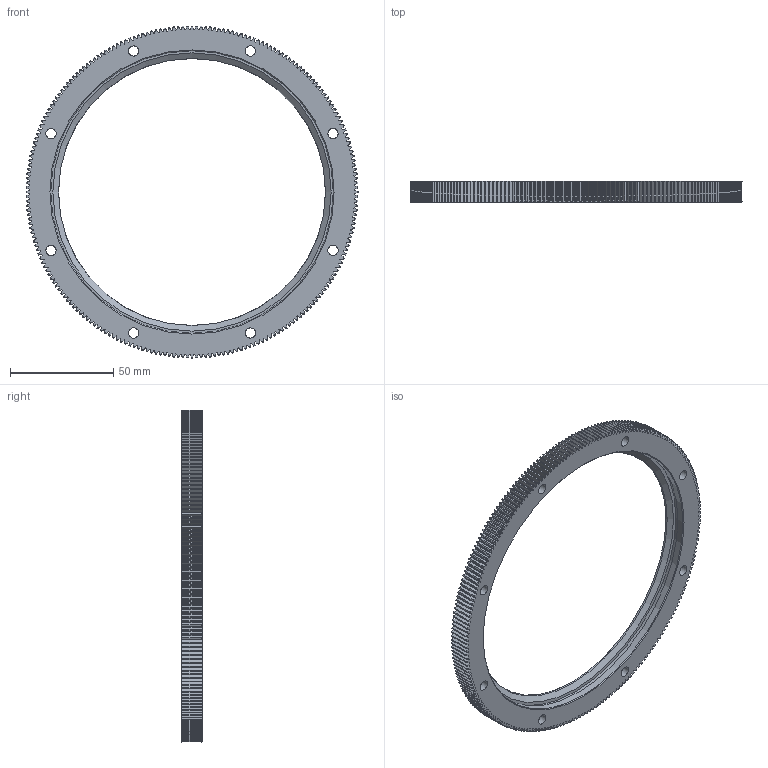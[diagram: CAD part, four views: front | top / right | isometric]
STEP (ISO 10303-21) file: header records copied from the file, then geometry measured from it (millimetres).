
FILE_DESCRIPTION(('STEP AP203'),'1');
FILE_NAME('RIV 161 R360 P.stp','2022-07-19T05:00:46',(' '),(' '),'Spatial InterOp 3D',' ',' ');
FILE_SCHEMA(('CONFIG_CONTROL_DESIGN'));
Length unit declared in the file: millimetre
Products named in the file (1): RIV 161 R360 P
Bounding box: 161 x 10 x 161 mm (x, y, z)
Volume: 53957.7 mm3; surface area: 28418 mm2
Topology: 1 solids, 1 shells, 1402 faces, 4174 edges, 2784 vertices
Faces by surface type: plane 924, cylinder 246, cone 231, torus 1
Full cylindrical faces by diameter (mm): 5 x8, 8 x8, 137 x1, 138.2 x1
Entity records: 47136 total; most frequent: CARTESIAN_POINT 9693, ORIENTED_EDGE 8290, DIRECTION 7220, EDGE_CURVE 4145, LINE 2964, VECTOR 2964, VERTEX_POINT 2777, AXIS2_PLACEMENT_3D 2128
